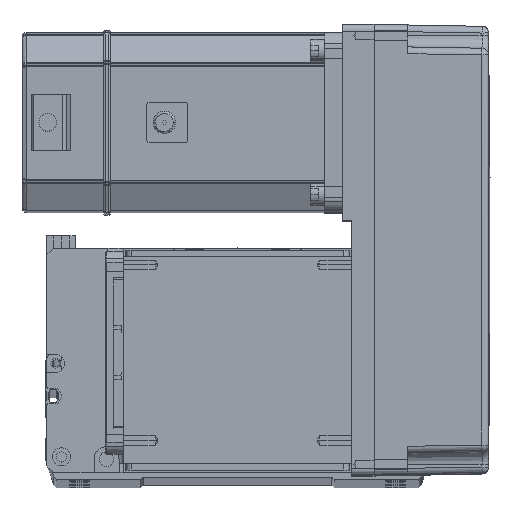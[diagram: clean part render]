
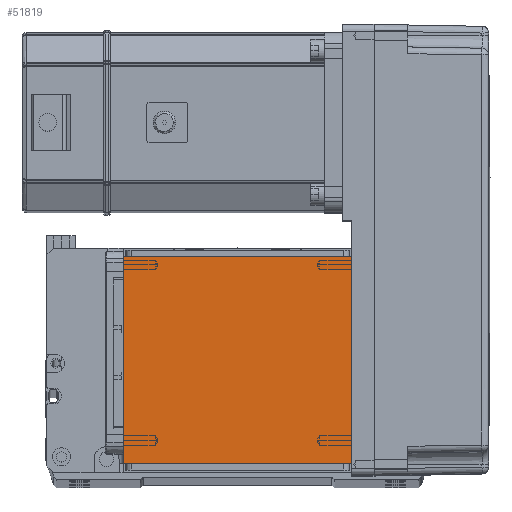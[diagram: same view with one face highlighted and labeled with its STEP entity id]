
A CAD part, top view. The second image highlights one B-rep face of the part: STEP entity #51819.
In plain terms, the highlighted planar face has unit normal (0, 0, 1).
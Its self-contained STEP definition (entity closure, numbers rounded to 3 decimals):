
#1881 = VECTOR ( 'NONE', #45252, 1000. ) ;
#3225 = EDGE_CURVE ( 'NONE', #58917, #11837, #13575, .T. ) ;
#8423 = ORIENTED_EDGE ( 'NONE', *, *, #45424, .F. ) ;
#9035 = VECTOR ( 'NONE', #16279, 1000. ) ;
#10581 = VECTOR ( 'NONE', #31486, 1000. ) ;
#11837 = VERTEX_POINT ( 'NONE', #39145 ) ;
#12001 = VERTEX_POINT ( 'NONE', #12307 ) ;
#12307 = CARTESIAN_POINT ( 'NONE',  ( -50.5, 20., 115. ) ) ;
#13096 = CARTESIAN_POINT ( 'NONE',  ( -50.5, 111.5, 115. ) ) ;
#13575 = LINE ( 'NONE', #60168, #10581 ) ;
#16279 = DIRECTION ( 'NONE',  ( 0., 1., 0. ) ) ;
#21027 = VECTOR ( 'NONE', #22809, 1000. ) ;
#22809 = DIRECTION ( 'NONE',  ( -1., 0., 0. ) ) ;
#24302 = LINE ( 'NONE', #49821, #1881 ) ;
#24402 = ORIENTED_EDGE ( 'NONE', *, *, #3225, .F. ) ;
#25152 = EDGE_LOOP ( 'NONE', ( #24402, #45502, #8423, #29560 ) ) ;
#29560 = ORIENTED_EDGE ( 'NONE', *, *, #45894, .T. ) ;
#31486 = DIRECTION ( 'NONE',  ( 1., 0., 0. ) ) ;
#31538 = LINE ( 'NONE', #51696, #21027 ) ;
#34487 = LINE ( 'NONE', #44737, #9035 ) ;
#36853 = CARTESIAN_POINT ( 'NONE',  ( 0., 0., 115. ) ) ;
#37713 = AXIS2_PLACEMENT_3D ( 'NONE', #36853, #60328, #46265 ) ;
#39145 = CARTESIAN_POINT ( 'NONE',  ( 50.5, 111.5, 115. ) ) ;
#40223 = PLANE ( 'NONE',  #37713 ) ;
#44737 = CARTESIAN_POINT ( 'NONE',  ( 50.5, 122., 115. ) ) ;
#45252 = DIRECTION ( 'NONE',  ( 0., -1., 0. ) ) ;
#45424 = EDGE_CURVE ( 'NONE', #59784, #12001, #31538, .T. ) ;
#45502 = ORIENTED_EDGE ( 'NONE', *, *, #50812, .T. ) ;
#45894 = EDGE_CURVE ( 'NONE', #59784, #11837, #34487, .T. ) ;
#46265 = DIRECTION ( 'NONE',  ( 1., 0., 0. ) ) ;
#48099 = CARTESIAN_POINT ( 'NONE',  ( 50.5, 20., 115. ) ) ;
#48132 = FACE_OUTER_BOUND ( 'NONE', #25152, .T. ) ;
#49821 = CARTESIAN_POINT ( 'NONE',  ( -50.5, 122., 115. ) ) ;
#50812 = EDGE_CURVE ( 'NONE', #58917, #12001, #24302, .T. ) ;
#51696 = CARTESIAN_POINT ( 'NONE',  ( -70.004, 20., 115. ) ) ;
#51819 = ADVANCED_FACE ( 'NONE', ( #48132 ), #40223, .T. ) ;
#58917 = VERTEX_POINT ( 'NONE', #13096 ) ;
#59784 = VERTEX_POINT ( 'NONE', #48099 ) ;
#60168 = CARTESIAN_POINT ( 'NONE',  ( -70.004, 111.5, 115. ) ) ;
#60328 = DIRECTION ( 'NONE',  ( 0., 0., 1. ) ) ;
